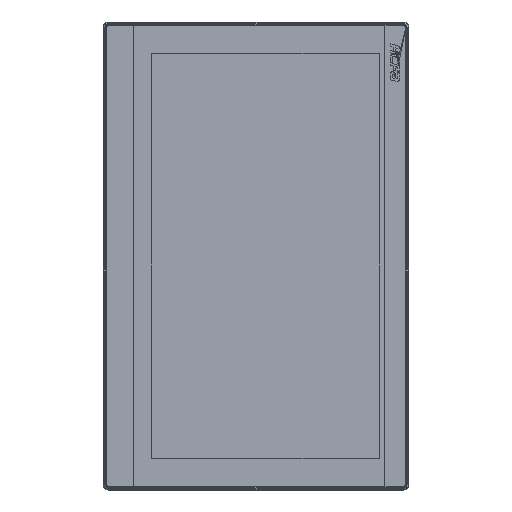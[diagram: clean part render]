
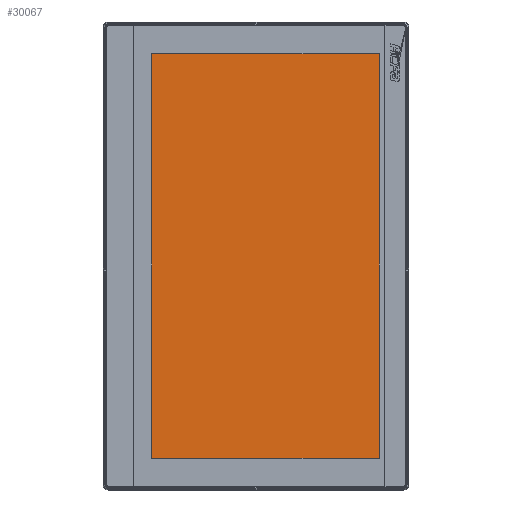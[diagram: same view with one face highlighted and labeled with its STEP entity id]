
A CAD part, top view. The second image highlights one B-rep face of the part: STEP entity #30067.
In plain terms, the highlighted planar face has unit normal (0, 0, 1).
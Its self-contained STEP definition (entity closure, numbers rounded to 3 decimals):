
#29966=CARTESIAN_POINT('',(-88.795,-172.08,6.4));
#29967=VERTEX_POINT('',#29966);
#29974=CARTESIAN_POINT('',(-88.795,172.08,6.4));
#29975=VERTEX_POINT('',#29974);
#29976=CARTESIAN_POINT('',(-88.795,-172.08,6.4));
#29977=DIRECTION('',(0.,1.,0.));
#29978=VECTOR('',#29977,344.16);
#29979=LINE('',#29976,#29978);
#29980=EDGE_CURVE('',#29967,#29975,#29979,.T.);
#29996=CARTESIAN_POINT('',(104.795,-172.08,6.4));
#29997=VERTEX_POINT('',#29996);
#30005=CARTESIAN_POINT('',(104.795,172.08,6.4));
#30006=VERTEX_POINT('',#30005);
#30013=CARTESIAN_POINT('',(104.795,172.08,6.4));
#30014=DIRECTION('',(0.,-1.,0.));
#30015=VECTOR('',#30014,344.16);
#30016=LINE('',#30013,#30015);
#30017=EDGE_CURVE('',#30006,#29997,#30016,.T.);
#30029=CARTESIAN_POINT('',(-88.795,172.08,6.4));
#30030=DIRECTION('',(1.,0.,0.));
#30031=VECTOR('',#30030,193.59);
#30032=LINE('',#30029,#30031);
#30033=EDGE_CURVE('',#29975,#30006,#30032,.T.);
#30046=CARTESIAN_POINT('',(104.795,-172.08,6.4));
#30047=DIRECTION('',(-1.,0.,0.));
#30048=VECTOR('',#30047,193.59);
#30049=LINE('',#30046,#30048);
#30050=EDGE_CURVE('',#29997,#29967,#30049,.T.);
#30056=CARTESIAN_POINT('',(0.,0.,6.4));
#30057=DIRECTION('',(-1.,0.,0.));
#30058=DIRECTION('',(0.,0.,1.));
#30059=AXIS2_PLACEMENT_3D('',#30056,#30058,#30057);
#30060=PLANE('',#30059);
#30061=ORIENTED_EDGE('',*,*,#30033,.F.);
#30062=ORIENTED_EDGE('',*,*,#29980,.F.);
#30063=ORIENTED_EDGE('',*,*,#30050,.F.);
#30064=ORIENTED_EDGE('',*,*,#30017,.F.);
#30065=EDGE_LOOP('',(#30061,#30062,#30063,#30064));
#30066=FACE_OUTER_BOUND('',#30065,.T.);
#30067=ADVANCED_FACE('',(#30066),#30060,.T.);
